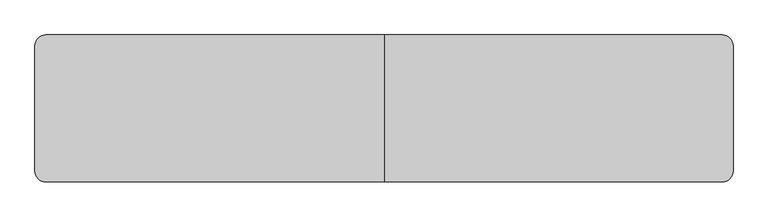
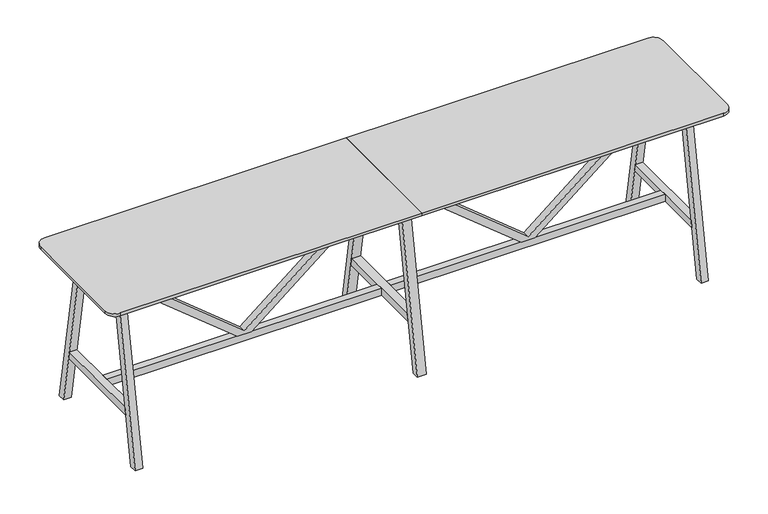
"""IFC4 building model written with IfcOpenShell, lengths in millimetres: furniture geometry, BDG_BossDesign_Tbls_AgentTables6Legs : AGE-HT-6L-3800-800-3D."""

from ifc_helpers import new_model, si_unit, point, frame, frame_2d, origin, place, context, project, spatial, polyline, circle_curve, trimmed, segment, composite_curve, outline, extrude, source, transform, mapped, element, save


def furniture_80203a72(model_context):
    return source(origin(), model_context, "Body", "SweptSolid", [
        extrude(outline(polyline([(345.0, 824.0823957), (345.0, 908.4176043), (992.0, 1705.0), (1032.0, 1705.0), (1032.0, 1685.0), (365.0, 866.25), (1032.0, 47.5), (1032.0, 27.5), (992.0, 27.5), (345.0, 824.0823957)])), frame((0.0, -22.5000305, 0.0), z_axis=(0.0, 1.0, 0.0), x_axis=(0.0, 0.0, 1.0)), (0.0, 0.0, 1.0), 45.000061),
        extrude(outline(polyline([(345.0, -824.0823957), (992.0, -27.5), (1032.0, -27.5), (1032.0, -47.5), (365.0, -866.25), (1032.0, -1685.0), (1032.0, -1705.0), (992.0, -1705.0), (345.0, -908.4176043), (345.0, -824.0823957)])), frame((0.0, -22.5000305, 0.0), z_axis=(0.0, 1.0, 0.0), x_axis=(0.0, 0.0, 1.0)), (0.0, 0.0, 1.0), 45.000061),
        extrude(outline(polyline([(400.0, 0.0), (354.9999949, 0.0), (185.5, 970.0), (230.5000051, 970.0), (400.0, 0.0)])), frame((-27.5, 0.0, 0.0), z_axis=(1.0, 0.0, 0.0), x_axis=(0.0, 1.0, 0.0)), (0.0, 0.0, 1.0), 55.0),
        extrude(outline(polyline([(-400.0, 0.0), (-230.5000051, 970.0), (-185.5, 970.0), (-354.9999949, 0.0), (-400.0, 0.0)])), frame((-27.5, 0.0, 0.0), z_axis=(1.0, 0.0, 0.0), x_axis=(0.0, 1.0, 0.0)), (0.0, 0.0, 1.0), 55.0),
        extrude(outline(polyline([(302.5773161, 300.0), (-302.5773161, 300.0), (-294.7139143, 345.0), (294.7139143, 345.0), (302.5773161, 300.0)])), frame((-27.5, 0.0, 0.0), z_axis=(1.0, 0.0, 0.0), x_axis=(0.0, 1.0, 0.0)), (0.0, 0.0, 1.0), 55.0),
        extrude(outline(composite_curve([segment(polyline([(0.0, 400.0), (0.0, -400.0), (-1840.0, -400.0)]), True, "CONTINUOUS"), segment(trimmed(circle_curve(frame_2d((-1840.0, -340.0)), 60.0), [point((-1840.0, -400.0))], [point((-1900.0, -340.0))], False, "CARTESIAN"), True, "CONTINUOUS"), segment(polyline([(-1900.0, -340.0), (-1900.0, 340.0)]), True, "CONTINUOUS"), segment(trimmed(circle_curve(frame_2d((-1840.0, 340.0)), 60.0), [point((-1900.0, 340.0))], [point((-1840.0, 400.0))], False, "CARTESIAN"), True, "CONTINUOUS"), segment(polyline([(-1840.0, 400.0), (0.0, 400.0)]), True, "CONTINUOUS")], self_intersect=False)), frame((0.0, 0.0, 1032.0), z_axis=(0.0, 0.0, 1.0), x_axis=(1.0, 0.0, 0.0)), (0.0, 0.0, 1.0), 18.0),
        extrude(outline(polyline([(-294.7139143, 345.0), (294.7139143, 345.0), (302.5773161, 300.0), (-302.5773161, 300.0), (-294.7139143, 345.0)])), frame((1705.0, 0.0, 0.0), z_axis=(1.0, 0.0, 0.0), x_axis=(0.0, 1.0, 0.0)), (0.0, 0.0, 1.0), 45.0),
        extrude(outline(polyline([(400.0, 0.0), (354.9999949, 0.0), (185.5, 970.0), (230.5000051, 970.0), (400.0, 0.0)])), frame((-1750.0, 0.0, 0.0), z_axis=(1.0, 0.0, 0.0), x_axis=(0.0, 1.0, 0.0)), (0.0, 0.0, 1.0), 45.0),
        extrude(outline(polyline([(-400.0, 0.0), (-230.5000051, 970.0), (-185.5, 970.0), (-354.9999949, 0.0), (-400.0, 0.0)])), frame((-1750.0, 0.0, 0.0), z_axis=(1.0, 0.0, 0.0), x_axis=(0.0, 1.0, 0.0)), (0.0, 0.0, 1.0), 45.0),
        extrude(outline(polyline([(-294.7139143, 345.0), (294.7139143, 345.0), (302.5773161, 300.0), (-302.5773161, 300.0), (-294.7139143, 345.0)])), frame((-1750.0, 0.0, 0.0), z_axis=(1.0, 0.0, 0.0), x_axis=(0.0, 1.0, 0.0)), (0.0, 0.0, 1.0), 45.0),
        extrude(outline(polyline([(-226.6006165, 944.973938), (-204.2770691, 1032.0), (-179.5, 1032.0), (-201.8235474, 944.973938), (-226.6006165, 944.973938)])), frame((-1705.0, 0.0, 0.0), z_axis=(1.0, 0.0, 0.0), x_axis=(0.0, 1.0, 0.0)), (0.0, 0.0, 1.0), 3410.0),
        extrude(outline(polyline([(226.6006165, 944.973938), (201.8235474, 944.973938), (179.5, 1032.0), (204.2770691, 1032.0), (226.6006165, 944.973938)])), frame((-1705.0, 0.0, 0.0), z_axis=(1.0, 0.0, 0.0), x_axis=(0.0, 1.0, 0.0)), (0.0, 0.0, 1.0), 3410.0),
        extrude(outline(polyline([(399.7999878, 0.0), (354.7999827, 0.0), (185.5, 970.0), (230.5000051, 970.0), (399.7999878, 0.0)])), frame((1705.0, 0.0, 0.0), z_axis=(1.0, 0.0, 0.0), x_axis=(0.0, 1.0, 0.0)), (0.0, 0.0, 1.0), 45.0),
        extrude(outline(polyline([(-399.7999878, 0.0), (-230.5000051, 970.0), (-185.5, 970.0), (-354.7999827, 0.0), (-399.7999878, 0.0)])), frame((1705.0, 0.0, 0.0), z_axis=(1.0, 0.0, 0.0), x_axis=(0.0, 1.0, 0.0)), (0.0, 0.0, 1.0), 45.0),
        extrude(outline(polyline([(-27.5, 22.5000305), (-27.5, -22.5000305), (-1705.0, -22.5000305), (-1705.0, 22.5000305), (-27.5, 22.5000305)])), frame((0.0, 0.0, 300.0), z_axis=(0.0, 0.0, 1.0), x_axis=(1.0, 0.0, 0.0)), (0.0, 0.0, 1.0), 45.0),
        extrude(outline(polyline([(27.5, -22.5000305), (27.5, 22.5000305), (1705.0, 22.5000305), (1705.0, -22.5000305), (27.5, -22.5000305)])), frame((0.0, 0.0, 300.0), z_axis=(0.0, 0.0, 1.0), x_axis=(1.0, 0.0, 0.0)), (0.0, 0.0, 1.0), 45.0),
        extrude(outline(composite_curve([segment(trimmed(circle_curve(frame_2d((1840.0, 340.0)), 60.0), [point((1840.0, 400.0))], [point((1900.0, 340.0))], False, "CARTESIAN"), True, "CONTINUOUS"), segment(polyline([(1900.0, 340.0), (1900.0, -340.0)]), True, "CONTINUOUS"), segment(trimmed(circle_curve(frame_2d((1840.0, -340.0)), 60.0), [point((1900.0, -340.0))], [point((1840.0, -400.0))], False, "CARTESIAN"), True, "CONTINUOUS"), segment(polyline([(1840.0, -400.0), (0.0, -400.0), (0.0, 400.0), (1840.0, 400.0)]), True, "CONTINUOUS")], self_intersect=False)), frame((0.0, 0.0, 1032.0), z_axis=(0.0, 0.0, 1.0), x_axis=(1.0, 0.0, 0.0)), (0.0, 0.0, 1.0), 18.0),
    ])


if __name__ == "__main__":
    model = new_model("IFC4")
    model_context = context("Model", 3, world=origin())
    ifc_project = project(units=[si_unit("LENGTHUNIT", "METRE", prefix="MILLI")], contexts=[model_context])
    site = spatial("IfcSite", under=ifc_project)
    building = spatial("IfcBuilding", under=site)
    placement = place(None, origin())
    furniture_shape = furniture_80203a72(model_context)
    element("IfcFurniture", 1, ObjectType="BDG_BossDesign_Tbls_AgentTables6Legs : AGE-HT-6L-3800-800-3D", at=placement, inside=building, context=model_context, shape_type="MappedRepresentation", body=[
        mapped(furniture_shape, transform((0.0, 0.0, 0.0), x_axis=(1.0, 0.0, 0.0), y_axis=(0.0, 1.0, 0.0), z_axis=(0.0, 0.0, 1.0))),
    ])
    save(model, "model.ifc")
